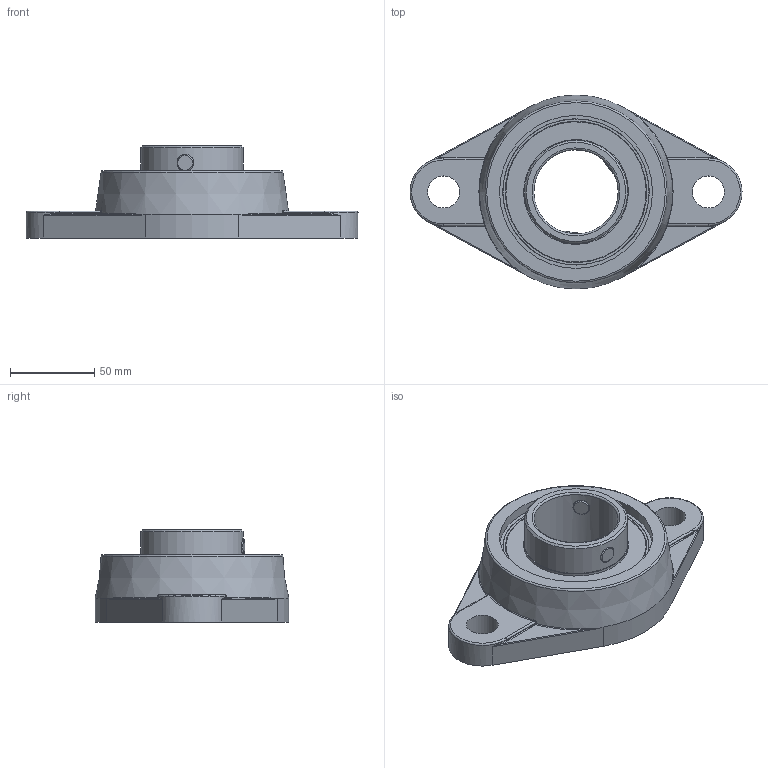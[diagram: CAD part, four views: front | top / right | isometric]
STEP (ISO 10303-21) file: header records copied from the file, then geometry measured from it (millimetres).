
FILE_DESCRIPTION(/* description */ (''),/* implementation_level */ '2;1');
FILE_NAME(/* name */ 'C:\MOJE SUBORY\03_Doplnenie 3D modelov\fmc\FMC210.stp',/* time_stamp */ '2020-12-14T13:31:46+01:00',/* author */ ('OUPIONTEKM'),/* organization */ (''),/* preprocessor_version */ 'ST-DEVELOPER v18.1',/* originating_system */ 'Autodesk Inventor 2021',/* authorisation */ '');
FILE_SCHEMA (('AUTOMOTIVE_DESIGN { 1 0 10303 214 3 1 1 }'));
Length unit declared in the file: millimetre
Products named in the file (10): FMC205; FM210; UC210; UC210-02; UC210-ball; UC210-01; UC210-cage; UC210-seal; M10X7; UC210-shield
Assembly tree (20 placements, depth 3):
  FMC205
    FM210
    UC210
      UC210-02
      UC210-ball  x8
      UC210-01
      UC210-cage  x2
      UC210-seal  x2
      M10X7  x2
      UC210-shield  x2
Bounding box: 197 x 115 x 54.6 mm (x, y, z)
Volume: 300180 mm3; surface area: 114505.5 mm2
Topology: 19 solids, 19 shells, 220 faces, 652 edges, 418 vertices
Faces by surface type: plane 81, cylinder 51, sphere 47, torus 17, bspline 16, cone 8
Full cylindrical faces by diameter (mm): 1.8 x2, 10 x4, 19 x2, 50 x1, 61.11 x6, 62.11 x2, 66.19 x2, 73.81 x2, 78.89 x2, 83.29 x2, 83.89 x4, 90.741 x1, 92.496 x1
Entity records: 7591 total; most frequent: CARTESIAN_POINT 3013, DIRECTION 953, ORIENTED_EDGE 870, EDGE_CURVE 435, AXIS2_PLACEMENT_3D 432, VERTEX_POINT 290, CIRCLE 252, EDGE_LOOP 191
